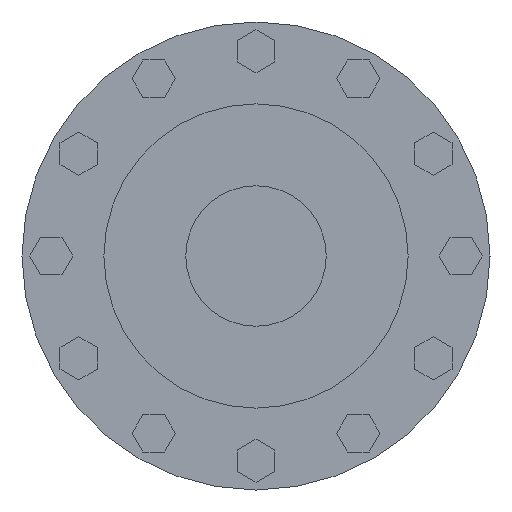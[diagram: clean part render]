
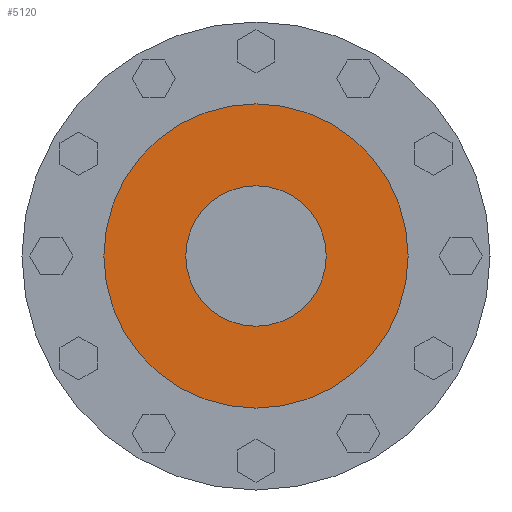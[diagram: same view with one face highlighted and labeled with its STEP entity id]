
A CAD part, left-side view. The second image highlights one B-rep face of the part: STEP entity #5120.
In plain terms, the highlighted planar face has unit normal (-1, 0, 0).
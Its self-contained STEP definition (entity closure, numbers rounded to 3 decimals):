
#6=CARTESIAN_POINT('',(-265.,0.,0.));
#7=DIRECTION('',(1.,0.,0.));
#8=DIRECTION('',(0.,1.,0.));
#9=AXIS2_PLACEMENT_3D('',#6,#7,#8);
#1097=CARTESIAN_POINT('',(-265.,0.,0.));
#1098=DIRECTION('',(-1.,0.,0.));
#1099=DIRECTION('',(0.,1.,0.));
#1100=AXIS2_PLACEMENT_3D('',#1097,#1098,#1099);
#1102=CARTESIAN_POINT('',(-265.,0.,0.));
#1103=DIRECTION('',(1.,0.,0.));
#1104=DIRECTION('',(0.,1.,0.));
#1105=AXIS2_PLACEMENT_3D('',#1102,#1103,#1104);
#1116=CARTESIAN_POINT('',(-265.,0.,0.));
#1117=DIRECTION('',(-1.,0.,0.));
#1118=DIRECTION('',(0.,1.,0.));
#1119=AXIS2_PLACEMENT_3D('',#1116,#1117,#1118);
#3200=CARTESIAN_POINT('',(-265.,65.,0.));
#3202=VERTEX_POINT('',#3200);
#3214=CARTESIAN_POINT('',(-265.,-65.,0.));
#3216=VERTEX_POINT('',#3214);
#3237=CARTESIAN_POINT('',(-265.,30.,0.));
#3238=VERTEX_POINT('',#3237);
#3239=CARTESIAN_POINT('',(-265.,-30.,0.));
#3240=VERTEX_POINT('',#3239);
#5106=CARTESIAN_POINT('',(-265.,0.,0.));
#5107=DIRECTION('',(1.,0.,0.));
#5108=DIRECTION('',(0.,-1.,0.));
#5109=AXIS2_PLACEMENT_3D('',#5106,#5107,#5108);
#5110=PLANE('',#5109);
#5111=ORIENTED_EDGE('',*,*,#5099,.F.);
#5112=ORIENTED_EDGE('',*,*,#5088,.T.);
#5113=EDGE_LOOP('',(#5111,#5112));
#5114=FACE_OUTER_BOUND('',#5113,.F.);
#5115=ORIENTED_EDGE('',*,*,#4230,.F.);
#5117=ORIENTED_EDGE('',*,*,#5116,.T.);
#5118=EDGE_LOOP('',(#5115,#5117));
#5119=FACE_BOUND('',#5118,.F.);
#5120=ADVANCED_FACE('',(#5114,#5119),#5110,.F.);
#10=CIRCLE('',#9,30.);
#1101=CIRCLE('',#1100,65.);
#1106=CIRCLE('',#1105,65.);
#1120=CIRCLE('',#1119,30.);
#4230=EDGE_CURVE('',#3238,#3240,#10,.T.);
#5088=EDGE_CURVE('',#3202,#3216,#1106,.T.);
#5099=EDGE_CURVE('',#3202,#3216,#1101,.T.);
#5116=EDGE_CURVE('',#3238,#3240,#1120,.T.);
